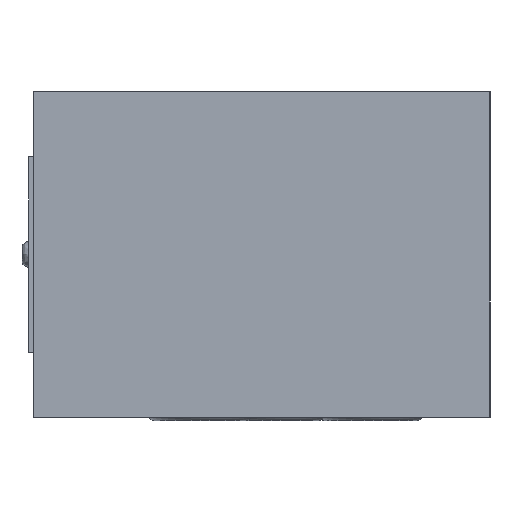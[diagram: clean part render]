
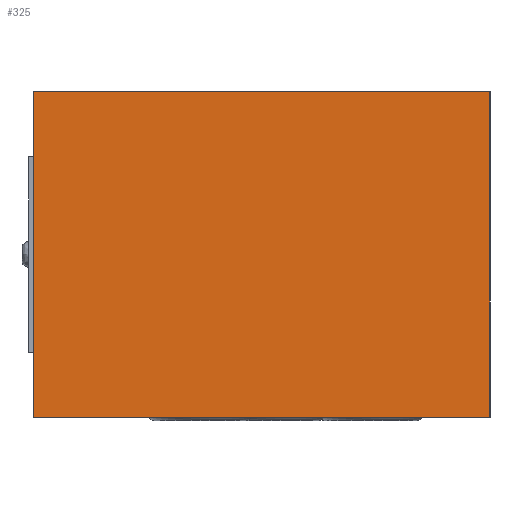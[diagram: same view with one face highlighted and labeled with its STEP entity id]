
A CAD part, left-side view. The second image highlights one B-rep face of the part: STEP entity #325.
In plain terms, the highlighted planar face has unit normal (-1, 0, 0).
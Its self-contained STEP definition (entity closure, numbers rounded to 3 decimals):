
#181=PLANE('',#1287);
#218=FACE_OUTER_BOUND('',#589,.T.);
#246=LINE('',#1831,#286);
#247=LINE('',#1833,#287);
#248=LINE('',#1835,#288);
#249=LINE('',#1837,#289);
#286=VECTOR('',#1464,1.);
#287=VECTOR('',#1467,1.);
#288=VECTOR('',#1468,1.);
#289=VECTOR('',#1469,1.);
#325=ADVANCED_FACE('',(#218),#181,.T.);
#589=EDGE_LOOP('',(#756,#757,#758,#759));
#756=ORIENTED_EDGE('',*,*,#1096,.F.);
#757=ORIENTED_EDGE('',*,*,#1095,.F.);
#758=ORIENTED_EDGE('',*,*,#1097,.T.);
#759=ORIENTED_EDGE('',*,*,#1098,.T.);
#983=VERTEX_POINT('',#1826);
#985=VERTEX_POINT('',#1830);
#986=VERTEX_POINT('',#1834);
#987=VERTEX_POINT('',#1836);
#1095=EDGE_CURVE('',#985,#983,#246,.T.);
#1096=EDGE_CURVE('',#983,#986,#247,.T.);
#1097=EDGE_CURVE('',#985,#987,#248,.T.);
#1098=EDGE_CURVE('',#987,#986,#249,.T.);
#1287=AXIS2_PLACEMENT_3D('',#1838,#1470,#1471);
#1464=DIRECTION('',(0.,0.,-1.));
#1467=DIRECTION('',(0.,1.,0.));
#1468=DIRECTION('',(0.,1.,0.));
#1469=DIRECTION('',(0.,0.,-1.));
#1470=DIRECTION('',(-1.,0.,0.));
#1471=DIRECTION('',(0.,0.,-1.));
#1826=CARTESIAN_POINT('',(215.335,8.915,0.));
#1830=CARTESIAN_POINT('',(215.335,8.915,50.));
#1831=CARTESIAN_POINT('',(215.335,8.915,50.));
#1833=CARTESIAN_POINT('',(215.335,43.915,0.));
#1834=CARTESIAN_POINT('',(215.335,78.915,0.));
#1835=CARTESIAN_POINT('',(215.335,8.915,50.));
#1836=CARTESIAN_POINT('',(215.335,78.915,50.));
#1837=CARTESIAN_POINT('',(215.335,78.915,50.));
#1838=CARTESIAN_POINT('',(215.335,43.915,50.));
